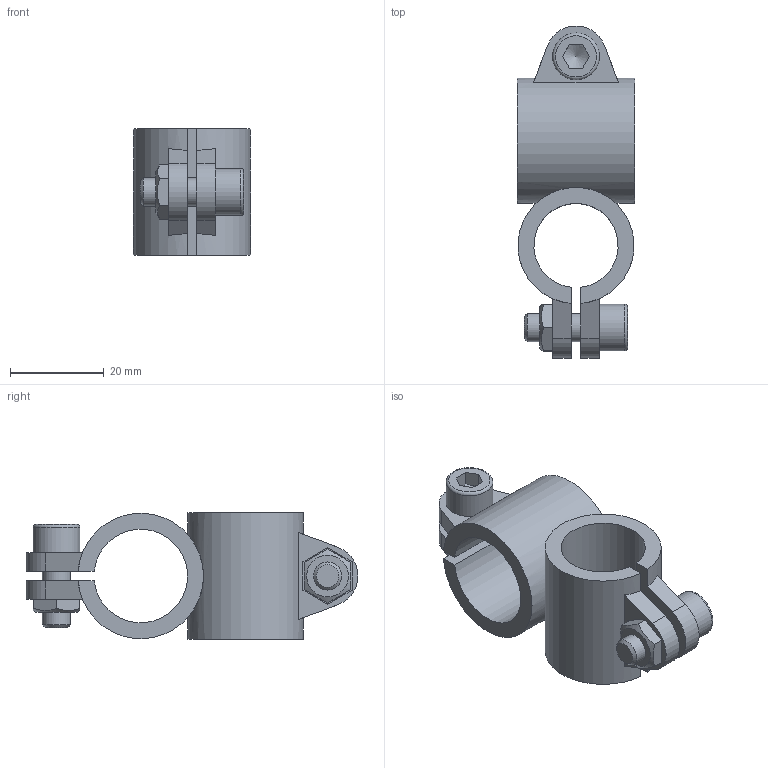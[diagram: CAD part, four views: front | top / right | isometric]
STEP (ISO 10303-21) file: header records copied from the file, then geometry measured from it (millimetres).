
FILE_DESCRIPTION(/* description */ ('GUIDE RAIL BRACKET'),/* implementation_level */ '2;1');
FILE_NAME(/* name */ '300-1090.stp',/* time_stamp */ '2022-09-16T11:04:47+02:00',/* author */ ('PL'),/* organization */ ('CARRYLINE'),/* preprocessor_version */ 'ST-DEVELOPER v19.2',/* originating_system */ 'Autodesk Inventor 2023',/* authorisation */ '');
FILE_SCHEMA (('AUTOMOTIVE_DESIGN { 1 0 10303 214 3 1 1 }'));
Length unit declared in the file: millimetre
Products named in the file (1): 300-1090
Bounding box: 25 x 70.9 x 27 mm (x, y, z)
Volume: 15455.2 mm3; surface area: 10855.3 mm2
Topology: 1 solids, 1 shells, 98 faces, 243 edges, 161 vertices
Faces by surface type: plane 68, cylinder 18, cone 8, torus 4
Full cylindrical faces by diameter (mm): 6 x4, 6.5 x4, 10 x2
Entity records: 3064 total; most frequent: CARTESIAN_POINT 626, ORIENTED_EDGE 482, DIRECTION 464, EDGE_CURVE 241, AXIS2_PLACEMENT_3D 163, VERTEX_POINT 161, LINE 138, VECTOR 138
